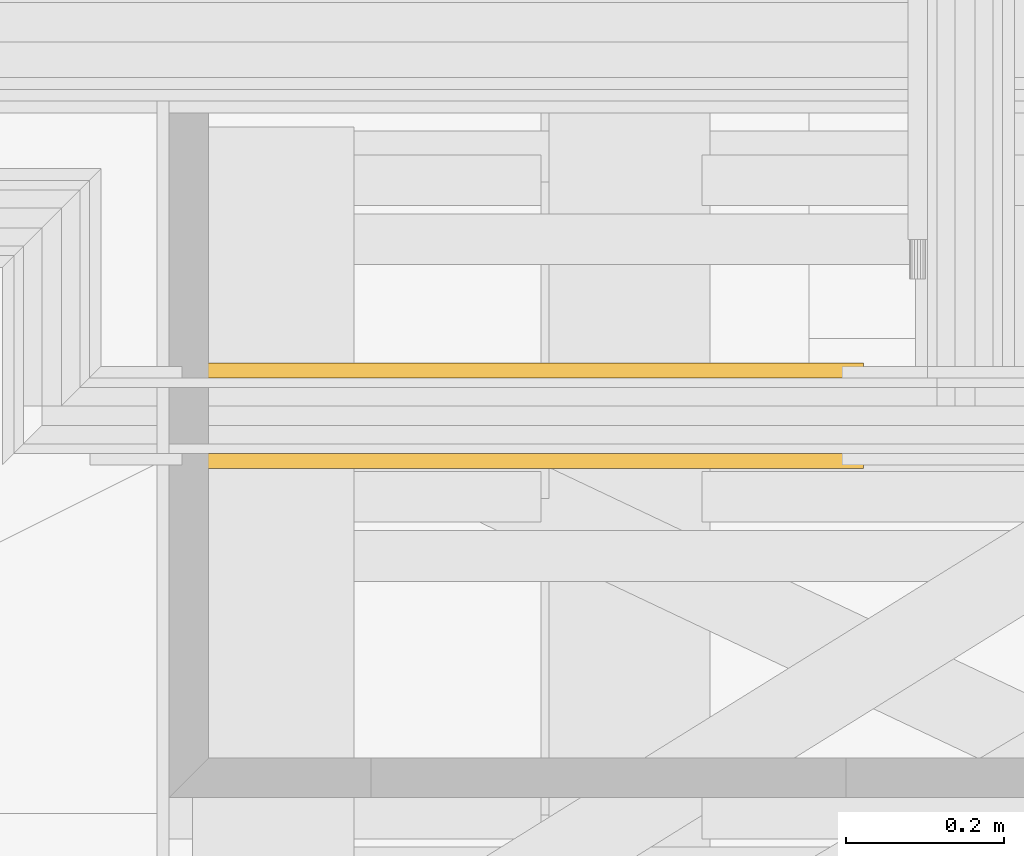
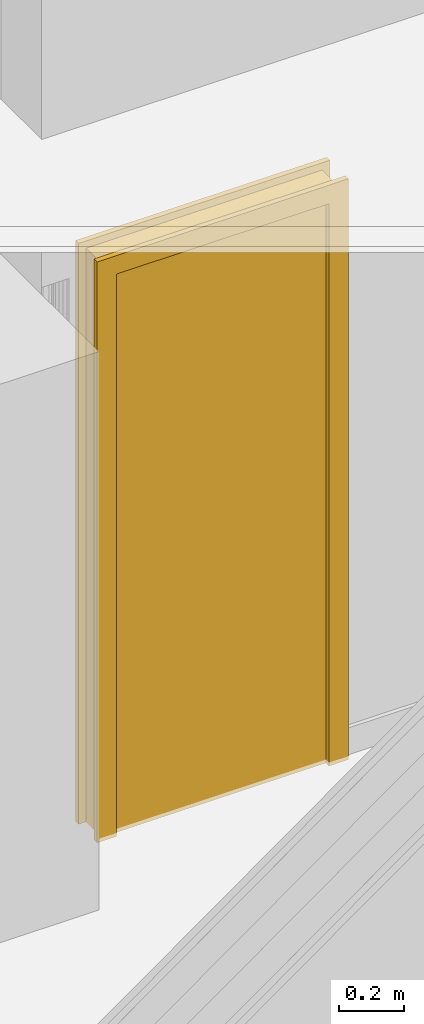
# One storey, part 143 of 183: 1 door.
"""IFC2X3 building model written with IfcOpenShell, lengths in metres."""

from ifc_helpers import new_model, entity, si_unit, converted_unit, derived_unit, money_unit, direction, frame, origin_with_axes, place, context, subcontext, project, spatial, faceted_brep, material, type_object, element, save


model = new_model("IFC2X3")

# Units and contexts
model_context = context("Model", 3, precision=1e-05, world=origin_with_axes(), true_north=direction((0.0, 1.0)))
body_context = subcontext(model_context, "Body", "Model", "MODEL_VIEW", scale=1.0)
ifc_project = project(units=[si_unit("LENGTHUNIT", "METRE"), si_unit("AREAUNIT", "SQUARE_METRE"), si_unit("VOLUMEUNIT", "CUBIC_METRE"), si_unit("ABSORBEDDOSEUNIT", "GRAY"), si_unit("AMOUNTOFSUBSTANCEUNIT", "MOLE"), si_unit("DOSEEQUIVALENTUNIT", "SIEVERT"), si_unit("ELECTRICCAPACITANCEUNIT", "FARAD"), si_unit("ELECTRICCHARGEUNIT", "COULOMB"), si_unit("ELECTRICCONDUCTANCEUNIT", "SIEMENS"), si_unit("ELECTRICCURRENTUNIT", "AMPERE"), si_unit("ELECTRICRESISTANCEUNIT", "OHM"), si_unit("ELECTRICVOLTAGEUNIT", "VOLT"), si_unit("ENERGYUNIT", "JOULE"), si_unit("FORCEUNIT", "NEWTON"), si_unit("FREQUENCYUNIT", "HERTZ"), si_unit("ILLUMINANCEUNIT", "LUX"), si_unit("INDUCTANCEUNIT", "HENRY"), si_unit("LUMINOUSFLUXUNIT", "LUMEN"), si_unit("LUMINOUSINTENSITYUNIT", "CANDELA"), si_unit("MAGNETICFLUXDENSITYUNIT", "TESLA"), si_unit("MAGNETICFLUXUNIT", "WEBER"), si_unit("MASSUNIT", "GRAM"), converted_unit("PLANEANGLEUNIT", "degree", entity("IfcReal", 0.0174532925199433), si_unit("PLANEANGLEUNIT", "RADIAN"), dimensions=[0, 0, 0, 0, 0, 0, 0]), si_unit("POWERUNIT", "WATT"), si_unit("PRESSUREUNIT", "PASCAL"), si_unit("RADIOACTIVITYUNIT", "BECQUEREL"), si_unit("SOLIDANGLEUNIT", "STERADIAN"), si_unit("THERMODYNAMICTEMPERATUREUNIT", "KELVIN"), si_unit("TIMEUNIT", "SECOND"), derived_unit("ACCELERATIONUNIT", [(si_unit("LENGTHUNIT", "METRE"), 1), (si_unit("TIMEUNIT", "SECOND"), -2)]), derived_unit("ANGULARVELOCITYUNIT", [(converted_unit("PLANEANGLEUNIT", "degree", entity("IfcReal", 0.0174532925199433), si_unit("PLANEANGLEUNIT", "RADIAN"), dimensions=[0, 0, 0, 0, 0, 0, 0]), 1), (si_unit("TIMEUNIT", "SECOND"), -1)]), derived_unit("CURVATUREUNIT", [(converted_unit("PLANEANGLEUNIT", "degree", entity("IfcReal", 0.0174532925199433), si_unit("PLANEANGLEUNIT", "RADIAN"), dimensions=[0, 0, 0, 0, 0, 0, 0]), 1), (si_unit("LENGTHUNIT", "METRE"), -1)]), derived_unit("DYNAMICVISCOSITYUNIT", [(si_unit("PRESSUREUNIT", "PASCAL"), 1), (si_unit("TIMEUNIT", "SECOND"), 1)]), derived_unit("HEATFLUXDENSITYUNIT", [(si_unit("POWERUNIT", "WATT"), 1), (si_unit("LENGTHUNIT", "METRE"), -2)]), derived_unit("HEATINGVALUEUNIT", [(si_unit("ENERGYUNIT", "JOULE"), 1), (si_unit("MASSUNIT", "GRAM"), -1)]), derived_unit("INTEGERCOUNTRATEUNIT", [(si_unit("TIMEUNIT", "SECOND"), -1)]), derived_unit("IONCONCENTRATIONUNIT", [(si_unit("MASSUNIT", "GRAM"), 1), (si_unit("VOLUMEUNIT", "CUBIC_METRE"), -1)]), derived_unit("ISOTHERMALMOISTURECAPACITYUNIT", [(si_unit("VOLUMEUNIT", "CUBIC_METRE"), 1), (si_unit("MASSUNIT", "GRAM"), -1)]), derived_unit("KINEMATICVISCOSITYUNIT", [(si_unit("AREAUNIT", "SQUARE_METRE"), 1), (si_unit("TIMEUNIT", "SECOND"), -1)]), derived_unit("LINEARFORCEUNIT", [(si_unit("FORCEUNIT", "NEWTON"), 1), (si_unit("LENGTHUNIT", "METRE"), -1)]), derived_unit("LINEARMOMENTUNIT", [(si_unit("FORCEUNIT", "NEWTON"), 1), (si_unit("LENGTHUNIT", "METRE"), -1)]), derived_unit("LINEARSTIFFNESSUNIT", [(si_unit("FORCEUNIT", "NEWTON"), 1), (si_unit("LENGTHUNIT", "METRE"), -1)]), derived_unit("LINEARVELOCITYUNIT", [(si_unit("LENGTHUNIT", "METRE"), 1), (si_unit("TIMEUNIT", "SECOND"), -1)]), derived_unit("LUMINOUSINTENSITYDISTRIBUTIONUNIT", [(si_unit("LUMINOUSINTENSITYUNIT", "CANDELA"), 1), (si_unit("LUMINOUSFLUXUNIT", "LUMEN"), -1)]), derived_unit("MASSDENSITYUNIT", [(si_unit("MASSUNIT", "GRAM"), 1), (si_unit("VOLUMEUNIT", "CUBIC_METRE"), -1)]), derived_unit("MASSFLOWRATEUNIT", [(si_unit("MASSUNIT", "GRAM"), 1), (si_unit("TIMEUNIT", "SECOND"), -1)]), derived_unit("MASSPERLENGTHUNIT", [(si_unit("MASSUNIT", "GRAM"), 1), (si_unit("LENGTHUNIT", "METRE"), -1)]), derived_unit("MODULUSOFELASTICITYUNIT", [(si_unit("FORCEUNIT", "NEWTON"), 1), (si_unit("AREAUNIT", "SQUARE_METRE"), -1)]), derived_unit("MODULUSOFLINEARSUBGRADEREACTIONUNIT", [(si_unit("FORCEUNIT", "NEWTON"), 1), (si_unit("LENGTHUNIT", "METRE"), -2)]), derived_unit("MODULUSOFROTATIONALSUBGRADEREACTIONUNIT", [(si_unit("FORCEUNIT", "NEWTON"), 1), (si_unit("LENGTHUNIT", "METRE"), 1)]), derived_unit("MODULUSOFSUBGRADEREACTIONUNIT", [(si_unit("FORCEUNIT", "NEWTON"), 1), (si_unit("VOLUMEUNIT", "CUBIC_METRE"), -1)]), derived_unit("MOISTUREDIFFUSIVITYUNIT", [(si_unit("VOLUMEUNIT", "CUBIC_METRE"), 1), (si_unit("TIMEUNIT", "SECOND"), -1)]), derived_unit("MOLECULARWEIGHTUNIT", [(si_unit("MASSUNIT", "GRAM"), 1), (si_unit("AMOUNTOFSUBSTANCEUNIT", "MOLE"), -1)]), derived_unit("PLANARFORCEUNIT", [(si_unit("FORCEUNIT", "NEWTON"), 1), (si_unit("LENGTHUNIT", "METRE"), -2)]), derived_unit("ROTATIONALFREQUENCYUNIT", [(si_unit("TIMEUNIT", "SECOND"), -1)]), derived_unit("ROTATIONALMASSUNIT", [(si_unit("MASSUNIT", "GRAM"), 1), (si_unit("LENGTHUNIT", "METRE"), 2)]), derived_unit("ROTATIONALSTIFFNESSUNIT", [(si_unit("FORCEUNIT", "NEWTON"), 1), (si_unit("LENGTHUNIT", "METRE"), 1), (converted_unit("PLANEANGLEUNIT", "degree", entity("IfcReal", 0.0174532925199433), si_unit("PLANEANGLEUNIT", "RADIAN"), dimensions=[0, 0, 0, 0, 0, 0, 0]), -1)]), derived_unit("SECTIONAREAINTEGRALUNIT", [(si_unit("LENGTHUNIT", "METRE"), 5)]), derived_unit("SECTIONMODULUSUNIT", [(si_unit("LENGTHUNIT", "METRE"), 3)]), derived_unit("SHEARMODULUSUNIT", [(si_unit("FORCEUNIT", "NEWTON"), 1), (si_unit("AREAUNIT", "SQUARE_METRE"), -1)]), derived_unit("SOUNDPOWERUNIT", [(si_unit("ENERGYUNIT", "JOULE"), 1), (si_unit("TIMEUNIT", "SECOND"), -1)]), derived_unit("SPECIFICHEATCAPACITYUNIT", [(si_unit("FORCEUNIT", "NEWTON"), 1), (si_unit("MASSUNIT", "GRAM"), -1), (si_unit("THERMODYNAMICTEMPERATUREUNIT", "KELVIN"), -1)]), derived_unit("TEMPERATUREGRADIENTUNIT", [(si_unit("THERMODYNAMICTEMPERATUREUNIT", "KELVIN"), 1), (si_unit("LENGTHUNIT", "METRE"), -1)]), derived_unit("THERMALADMITTANCEUNIT", [(si_unit("POWERUNIT", "WATT"), 1), (si_unit("AREAUNIT", "SQUARE_METRE"), -1), (si_unit("THERMODYNAMICTEMPERATUREUNIT", "KELVIN"), -1)]), derived_unit("THERMALCONDUCTANCEUNIT", [(si_unit("POWERUNIT", "WATT"), 1), (si_unit("LENGTHUNIT", "METRE"), -1), (si_unit("THERMODYNAMICTEMPERATUREUNIT", "KELVIN"), -1)]), derived_unit("THERMALEXPANSIONCOEFFICIENTUNIT", [(si_unit("THERMODYNAMICTEMPERATUREUNIT", "KELVIN"), -1)]), derived_unit("THERMALRESISTANCEUNIT", [(si_unit("AREAUNIT", "SQUARE_METRE"), 1), (si_unit("POWERUNIT", "WATT"), -1)]), derived_unit("THERMALTRANSMITTANCEUNIT", [(si_unit("POWERUNIT", "WATT"), 1), (si_unit("AREAUNIT", "SQUARE_METRE"), -1), (si_unit("THERMODYNAMICTEMPERATUREUNIT", "KELVIN"), -1)]), derived_unit("TORQUEUNIT", [(si_unit("FORCEUNIT", "NEWTON"), 1), (si_unit("LENGTHUNIT", "METRE"), 1)]), derived_unit("VAPORPERMEABILITYUNIT", [(si_unit("MASSUNIT", "GRAM"), 1), (si_unit("TIMEUNIT", "SECOND"), -1)]), derived_unit("VOLUMETRICFLOWRATEUNIT", [(si_unit("VOLUMEUNIT", "CUBIC_METRE"), 1), (si_unit("TIMEUNIT", "SECOND"), -1)]), derived_unit("WARPINGCONSTANTUNIT", [(si_unit("LENGTHUNIT", "METRE"), 6)]), derived_unit("WARPINGMOMENTUNIT", [(si_unit("FORCEUNIT", "NEWTON"), 1), (si_unit("LENGTHUNIT", "METRE"), 2)]), money_unit("GBP")], contexts=[model_context])

# Site, building, storey, space
site_placement = place(None, origin_with_axes())
site = spatial("IfcSite", under=ifc_project, at=site_placement, Name="Site", CompositionType="ELEMENT")
building_placement = place(site_placement, origin_with_axes())
building = spatial("IfcBuilding", under=site, at=building_placement, Name="Building01", CompositionType="ELEMENT")
storey_placement = place(building_placement, frame((0.0, 0.0, 5.15), z_axis=(0.0, 0.0, 1.0), x_axis=(1.0, 0.0, 0.0)))
storey = spatial("IfcBuildingStorey", under=building, at=storey_placement, Name="1F", CompositionType="ELEMENT", Elevation=5.15)
space_placement = place(storey_placement, frame((20.122661, 5.205, 0.017975), z_axis=(0.0, 0.0, 1.0), x_axis=(1.0, 0.0, 0.0)))
space = spatial("IfcSpace", under=storey, at=space_placement, Name="03", CompositionType="ELEMENT", InteriorOrExteriorSpace="NOTDEFINED")

# Door
ifc_material = material(Name="A_BSUK_Doors")
door_style = type_object("IfcDoorStyle", Name="A-Doors-SingleFlush", ConstructionType="USERDEFINED", OperationType="SINGLE_SWING_RIGHT", ParameterTakesPrecedence=False, Sizeable=False)
door_placement = place(storey_placement, frame((22.326661, 6.905, 0.0), z_axis=(0.0, 0.0, 1.0), x_axis=(-1.0, 0.0, 0.0)))
element("IfcDoor", 1, at=door_placement, inside=space, type_object=door_style, material=ifc_material, Name="1.11", ObjectType="A-Doors-SingleFlush", OverallHeight=2.16900000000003, OverallWidth=0.888000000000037, context=body_context, shape_type="Brep", body=[
    faceted_brep([(0.75, -0.114, 0.0), (0.819, -0.114, 0.0), (0.819, -0.114, 2.169), (-0.069, -0.114, 2.169), (-0.069, -0.114, 0.0), (0.0, -0.114, 0.0), (0.0, -0.114, 2.1), (0.75, -0.114, 2.1), (-0.069, -0.095, 0.0), (-0.069, -0.095, 2.169), (0.819, -0.095, 2.169), (0.819, -0.095, 0.0), (0.75, 0.019, 0.0), (0.819, 0.019, 0.0), (0.819, 0.0, 0.0), (0.792, 0.0, 0.0), (0.792, -0.095, 0.0), (0.75, 0.019, 2.1), (0.0, 0.019, 2.1), (0.0, 0.019, 0.0), (-0.069, 0.019, 0.0), (-0.069, 0.019, 2.169), (0.819, 0.019, 2.169), (0.819, 0.0, 2.169), (0.792, -0.095, 2.142), (0.792, 0.0, 2.142), (-0.042, -0.095, 2.142), (-0.042, 0.0, 2.142), (-0.042, -0.095, 0.0), (-0.042, 0.0, 0.0), (-0.069, 0.0, 2.169), (-0.069, 0.0, 0.0)], [[[0, 1, 2, 3, 4, 5, 6, 7]], [[8, 4, 3, 9]], [[10, 2, 1, 11]], [[9, 3, 2, 10]], [[12, 13, 14, 15, 16, 11, 1, 0]], [[7, 17, 12, 0]], [[6, 18, 17, 7]], [[18, 19, 20, 21, 22, 13, 12, 17]], [[5, 19, 18, 6]], [[13, 22, 23, 14]], [[24, 16, 15, 25]], [[26, 24, 25, 27]], [[11, 16, 24, 26, 28, 8, 9, 10]], [[27, 29, 28, 26]], [[25, 15, 14, 23, 30, 31, 29, 27]], [[5, 4, 8, 28, 29, 31, 20, 19]], [[30, 21, 20, 31]], [[23, 22, 21, 30]]]),
    faceted_brep([(0.0, -0.09, 2.1), (0.0, -0.04, 2.1), (0.0, -0.04, 0.0), (0.0, -0.09, 0.0), (0.725, -0.09, 0.0), (0.75, -0.09, 0.0), (0.75, -0.09, 2.1), (0.025, -0.09, 0.0), (0.025, -0.09, 2.075), (0.725, -0.09, 2.075), (0.725, -0.04, 0.0), (0.75, -0.04, 0.0), (0.75, -0.04, 2.1), (0.025, -0.04, 2.075), (0.025, -0.04, 0.0), (0.725, -0.04, 2.075)], [[[0, 1, 2, 3]], [[4, 5, 6, 0, 3, 7, 8, 9]], [[10, 11, 5, 4]], [[6, 12, 1, 0]], [[5, 11, 12, 6]], [[13, 14, 2, 1, 12, 11, 10, 15]], [[7, 14, 13, 8]], [[7, 3, 2, 14]], [[9, 15, 10, 4]], [[8, 13, 15, 9]]]),
    faceted_brep([(0.75, -0.04, 0.0), (0.75, 0.0, 0.0), (0.75, 0.0, 2.1), (0.75, -0.04, 2.1), (0.0, -0.04, 2.1), (0.0, 0.0, 2.1), (0.0, 0.0, 0.0), (0.0, -0.04, 0.0)], [[[0, 1, 2, 3]], [[4, 5, 6, 7]], [[7, 6, 1, 0]], [[3, 4, 7, 0]], [[3, 2, 5, 4]], [[1, 6, 5, 2]]]),
])

save(model, "model.ifc")
